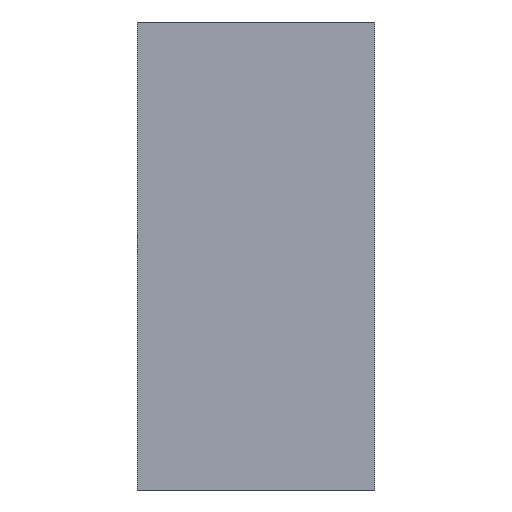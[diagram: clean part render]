
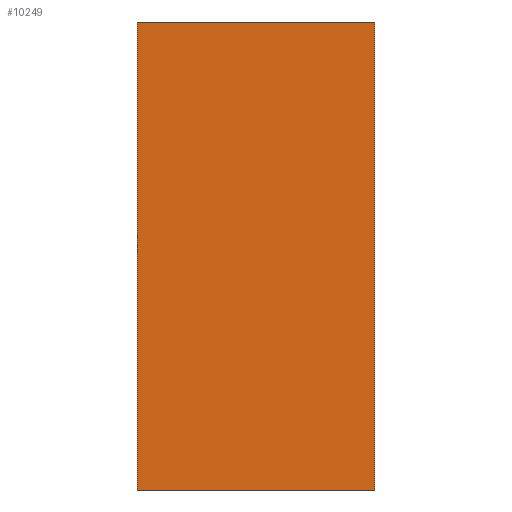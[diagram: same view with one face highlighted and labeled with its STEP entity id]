
A CAD part, front view. The second image highlights one B-rep face of the part: STEP entity #10249.
In plain terms, the highlighted planar face has unit normal (0, -1, 0).
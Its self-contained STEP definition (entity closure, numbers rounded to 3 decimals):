
#503=FACE_OUTER_BOUND('',#992,.T.);
#992=EDGE_LOOP('',(#9268,#9269,#9270,#9271));
#1244=LINE('',#13729,#2705);
#2449=LINE('',#16077,#3910);
#2452=LINE('',#16124,#3913);
#2453=LINE('',#16126,#3914);
#2705=VECTOR('',#11153,10.);
#3910=VECTOR('',#13106,10.);
#3913=VECTOR('',#13197,10.);
#3914=VECTOR('',#13200,10.);
#4118=VERTEX_POINT('',#13726);
#4119=VERTEX_POINT('',#13728);
#4887=VERTEX_POINT('',#16074);
#4888=VERTEX_POINT('',#16076);
#5140=EDGE_CURVE('',#4118,#4119,#1244,.T.);
#6345=EDGE_CURVE('',#4887,#4888,#2449,.T.);
#6348=EDGE_CURVE('',#4888,#4118,#2452,.T.);
#6349=EDGE_CURVE('',#4119,#4887,#2453,.T.);
#9268=ORIENTED_EDGE('',*,*,#5140,.F.);
#9269=ORIENTED_EDGE('',*,*,#6348,.F.);
#9270=ORIENTED_EDGE('',*,*,#6345,.F.);
#9271=ORIENTED_EDGE('',*,*,#6349,.F.);
#9760=PLANE('',#10761);
#10249=ADVANCED_FACE('',(#503),#9760,.F.);
#10761=AXIS2_PLACEMENT_3D('',#16127,#13201,#13202);
#11153=DIRECTION('',(0.,0.,-1.));
#13106=DIRECTION('',(0.,0.,1.));
#13197=DIRECTION('',(1.,0.,0.));
#13200=DIRECTION('',(-1.,0.,0.));
#13201=DIRECTION('center_axis',(0.,1.,0.));
#13202=DIRECTION('ref_axis',(0.,0.,1.));
#13726=CARTESIAN_POINT('',(38.5,0.,76.));
#13728=CARTESIAN_POINT('',(38.5,0.,-76.));
#13729=CARTESIAN_POINT('',(38.5,0.,76.));
#16074=CARTESIAN_POINT('',(-38.5,0.,-76.));
#16076=CARTESIAN_POINT('',(-38.5,0.,76.));
#16077=CARTESIAN_POINT('',(-38.5,0.,-76.));
#16124=CARTESIAN_POINT('',(-38.5,0.,76.));
#16126=CARTESIAN_POINT('',(38.5,0.,-76.));
#16127=CARTESIAN_POINT('Origin',(0.,0.,0.));
